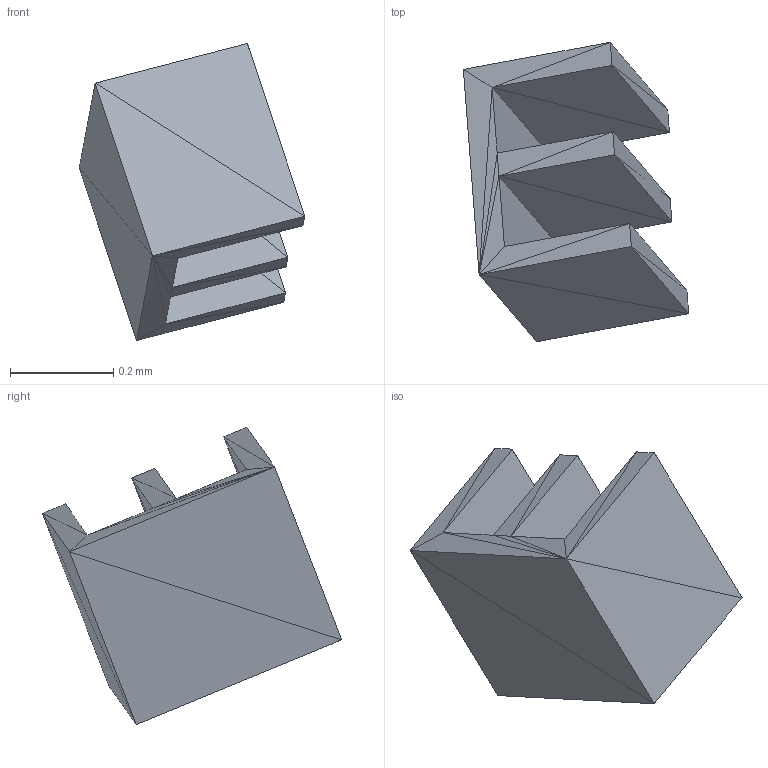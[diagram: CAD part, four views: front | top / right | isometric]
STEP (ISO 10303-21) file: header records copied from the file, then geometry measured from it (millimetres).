
FILE_DESCRIPTION(/* description */ (''),/* implementation_level */ '2;1');
FILE_NAME(/* name */ 'E.stp',/* time_stamp */ '2014-7-20T16:04:21.8119957',/* author */ ('EtsujiNomura'),/* organization */ (''),/* preprocessor_version */ 'InStep v2',/* originating_system */ 'InStep V2.3',/* authorisation */ '');
FILE_SCHEMA (('AUTOMOTIVE_DESIGN { 1 0 10303 214 1 1 1 1 }'));
Length unit declared in the file: millimetre
Products named in the file (1): None
Bounding box: 0.44 x 0.58 x 0.57 mm (x, y, z)
Volume: 0 mm3; surface area: 1 mm2
Topology: 1 solids, 1 shells, 44 faces, 66 edges, 24 vertices
Faces by surface type: plane 44
Entity records: 716 total; most frequent: ORIENTED_EDGE 132, DIRECTION 100, LINE 66, EDGE_CURVE 66, VECTOR 54, AXIS2_PLACEMENT_3D 45, EDGE_LOOP 44, FACE_OUTER_BOUND 44
